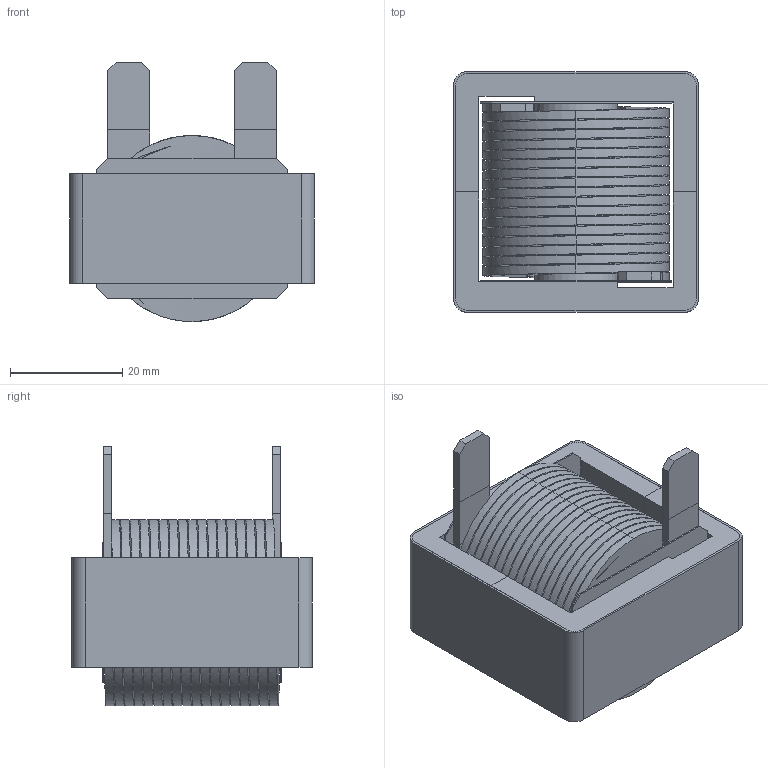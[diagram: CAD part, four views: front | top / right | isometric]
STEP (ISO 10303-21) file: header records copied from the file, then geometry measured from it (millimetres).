
FILE_DESCRIPTION (( 'STEP AP214' ), '1' );
FILE_NAME ('E70340-004.STEP', '2021-05-28T09:30:59', ( '' ), ( '' ), 'SwSTEP 2.0', 'SolidWorks 2015', '' );
FILE_SCHEMA (( 'AUTOMOTIVE_DESIGN' ));
Length unit declared in the file: millimetre
Products named in the file (6): CENTER MYLAR; E CORE; WRAPPER; HELICAL COIL; SIDE MYLAR; E70340-004
Assembly tree (7 placements, depth 2):
  E70340-004
    HELICAL COIL
    E CORE  x2
    SIDE MYLAR  x2
    CENTER MYLAR
    WRAPPER
Bounding box: 43.56 x 42.8 x 46.1 mm (x, y, z)
Volume: 36876.5 mm3; surface area: 48123.4 mm2
Topology: 11 solids, 11 shells, 350 faces, 934 edges, 618 vertices
Faces by surface type: plane 191, cylinder 100, bspline 59
Entity records: 17843 total; most frequent: CARTESIAN_POINT 8583, ORIENTED_EDGE 1724, DIRECTION 1188, EDGE_CURVE 862, VERTEX_POINT 570, LINE 538, VECTOR 538, EDGE_LOOP 342
